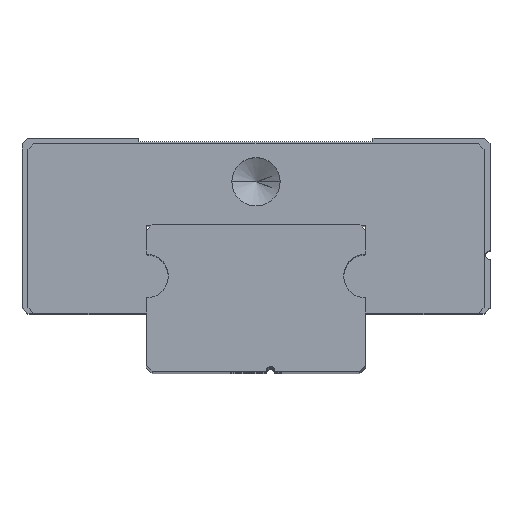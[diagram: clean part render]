
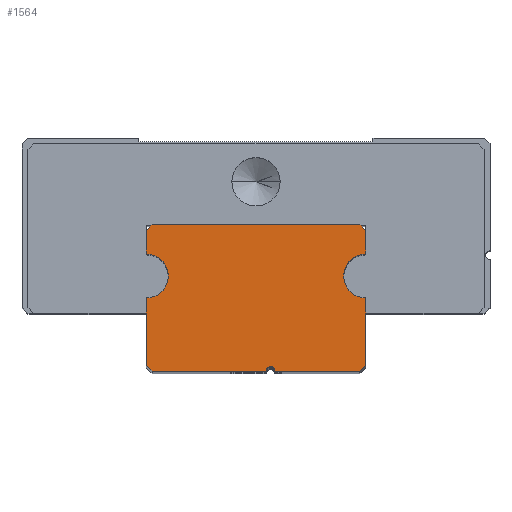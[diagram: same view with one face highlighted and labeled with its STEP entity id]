
A CAD part, top view. The second image highlights one B-rep face of the part: STEP entity #1564.
In plain terms, the highlighted planar face has unit normal (0, 0, 1).
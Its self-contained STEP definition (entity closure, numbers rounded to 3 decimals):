
#6 = CIRCLE ( 'NONE', #3812, 0.3 ) ;
#129 = VERTEX_POINT ( 'NONE', #2183 ) ;
#176 = CARTESIAN_POINT ( 'NONE',  ( 7.5, 10., 55. ) ) ;
#261 = CARTESIAN_POINT ( 'NONE',  ( 0.7, 0., 55. ) ) ;
#276 = CARTESIAN_POINT ( 'NONE',  ( -7.5, 9.6, 55. ) ) ;
#323 = ORIENTED_EDGE ( 'NONE', *, *, #6249, .F. ) ;
#345 = CARTESIAN_POINT ( 'NONE',  ( 7.5, 6.5, 55. ) ) ;
#435 = CARTESIAN_POINT ( 'NONE',  ( -7.5, 9.6, 55. ) ) ;
#440 = ORIENTED_EDGE ( 'NONE', *, *, #2705, .T. ) ;
#552 = DIRECTION ( 'NONE',  ( -1., 0., 0. ) ) ;
#568 = CARTESIAN_POINT ( 'NONE',  ( 7.5, 0.4, 55. ) ) ;
#615 = ORIENTED_EDGE ( 'NONE', *, *, #2784, .F. ) ;
#741 = CIRCLE ( 'NONE', #2118, 1.5 ) ;
#752 = CARTESIAN_POINT ( 'NONE',  ( 7.5, 0.4, 55. ) ) ;
#787 = LINE ( 'NONE', #6220, #3054 ) ;
#864 = CARTESIAN_POINT ( 'NONE',  ( -7.5, 0., 55. ) ) ;
#872 = EDGE_CURVE ( 'NONE', #4427, #4198, #4868, .T. ) ;
#884 = CARTESIAN_POINT ( 'NONE',  ( -7.5, 5., 55. ) ) ;
#955 = VERTEX_POINT ( 'NONE', #884 ) ;
#972 = EDGE_CURVE ( 'NONE', #6236, #1760, #2346, .T. ) ;
#1065 = EDGE_CURVE ( 'NONE', #3549, #2275, #4900, .T. ) ;
#1099 = CARTESIAN_POINT ( 'NONE',  ( 1., 0., 55. ) ) ;
#1160 = DIRECTION ( 'NONE',  ( 0., 1., 0. ) ) ;
#1319 = CARTESIAN_POINT ( 'NONE',  ( 1., 0., 55. ) ) ;
#1564 = ADVANCED_FACE ( 'NONE', ( #3626 ), #5998, .F. ) ;
#1595 = LINE ( 'NONE', #176, #5480 ) ;
#1670 = DIRECTION ( 'NONE',  ( 0., 1., 0. ) ) ;
#1760 = VERTEX_POINT ( 'NONE', #3886 ) ;
#1761 = DIRECTION ( 'NONE',  ( -1., 0., 0. ) ) ;
#1789 = ORIENTED_EDGE ( 'NONE', *, *, #1065, .F. ) ;
#1869 = ORIENTED_EDGE ( 'NONE', *, *, #5247, .T. ) ;
#1948 = ORIENTED_EDGE ( 'NONE', *, *, #3622, .F. ) ;
#1985 = CARTESIAN_POINT ( 'NONE',  ( -7.5, 6.5, 55. ) ) ;
#2118 = AXIS2_PLACEMENT_3D ( 'NONE', #3004, #4537, #2514 ) ;
#2183 = CARTESIAN_POINT ( 'NONE',  ( 1.3, 0., 55. ) ) ;
#2275 = VERTEX_POINT ( 'NONE', #752 ) ;
#2287 = DIRECTION ( 'NONE',  ( -1., 0., 0. ) ) ;
#2325 = AXIS2_PLACEMENT_3D ( 'NONE', #345, #6425, #5002 ) ;
#2346 = LINE ( 'NONE', #4367, #4943 ) ;
#2360 = DIRECTION ( 'NONE',  ( 0., 0., 1. ) ) ;
#2378 = CARTESIAN_POINT ( 'NONE',  ( 7.5, 0., 55. ) ) ;
#2457 = DIRECTION ( 'NONE',  ( -0.707, -0.707, 0. ) ) ;
#2514 = DIRECTION ( 'NONE',  ( -1., 0., 0. ) ) ;
#2535 = ORIENTED_EDGE ( 'NONE', *, *, #4162, .T. ) ;
#2562 = LINE ( 'NONE', #568, #3188 ) ;
#2602 = VERTEX_POINT ( 'NONE', #5166 ) ;
#2640 = ORIENTED_EDGE ( 'NONE', *, *, #872, .F. ) ;
#2642 = DIRECTION ( 'NONE',  ( 0., 0., -1. ) ) ;
#2705 = EDGE_CURVE ( 'NONE', #6236, #4466, #1595, .T. ) ;
#2738 = EDGE_CURVE ( 'NONE', #3646, #129, #787, .T. ) ;
#2784 = EDGE_CURVE ( 'NONE', #2602, #955, #4748, .T. ) ;
#2947 = DIRECTION ( 'NONE',  ( 0.707, -0.707, 0. ) ) ;
#2948 = EDGE_LOOP ( 'NONE', ( #1869, #2640, #2535, #4225, #4725, #1789, #4285, #3869, #4568, #5614, #440, #4525, #323, #1948, #615 ) ) ;
#2953 = DIRECTION ( 'NONE',  ( -1., 0., 0. ) ) ;
#2956 = CIRCLE ( 'NONE', #2325, 1.5 ) ;
#2997 = CARTESIAN_POINT ( 'NONE',  ( 1., 0., 55. ) ) ;
#3004 = CARTESIAN_POINT ( 'NONE',  ( 7.5, 6.5, 55. ) ) ;
#3054 = VECTOR ( 'NONE', #2287, 1000. ) ;
#3163 = VECTOR ( 'NONE', #1160, 1000. ) ;
#3188 = VECTOR ( 'NONE', #3189, 1000. ) ;
#3189 = DIRECTION ( 'NONE',  ( 0.707, 0.707, 0. ) ) ;
#3248 = VECTOR ( 'NONE', #3769, 1000. ) ;
#3249 = VECTOR ( 'NONE', #5828, 1000. ) ;
#3277 = CIRCLE ( 'NONE', #4441, 1.5 ) ;
#3547 = CARTESIAN_POINT ( 'NONE',  ( 7.5, 8., 55. ) ) ;
#3549 = VERTEX_POINT ( 'NONE', #4415 ) ;
#3582 = CARTESIAN_POINT ( 'NONE',  ( 6., 6.5, 55. ) ) ;
#3621 = EDGE_CURVE ( 'NONE', #6181, #3549, #2956, .T. ) ;
#3622 = EDGE_CURVE ( 'NONE', #955, #5619, #3277, .T. ) ;
#3626 = FACE_OUTER_BOUND ( 'NONE', #2948, .T. ) ;
#3646 = VERTEX_POINT ( 'NONE', #6020 ) ;
#3769 = DIRECTION ( 'NONE',  ( -1., 0., 0. ) ) ;
#3812 = AXIS2_PLACEMENT_3D ( 'NONE', #2997, #5048, #552 ) ;
#3869 = ORIENTED_EDGE ( 'NONE', *, *, #4033, .F. ) ;
#3886 = CARTESIAN_POINT ( 'NONE',  ( 7.5, 9.6, 55. ) ) ;
#3887 = AXIS2_PLACEMENT_3D ( 'NONE', #1099, #2642, #5509 ) ;
#3992 = DIRECTION ( 'NONE',  ( 0.707, -0.707, 0. ) ) ;
#4033 = EDGE_CURVE ( 'NONE', #4060, #6181, #741, .T. ) ;
#4057 = CARTESIAN_POINT ( 'NONE',  ( -7.1, 0., 55. ) ) ;
#4060 = VERTEX_POINT ( 'NONE', #5014 ) ;
#4162 = EDGE_CURVE ( 'NONE', #4427, #129, #6, .T. ) ;
#4198 = VERTEX_POINT ( 'NONE', #4057 ) ;
#4225 = ORIENTED_EDGE ( 'NONE', *, *, #2738, .F. ) ;
#4285 = ORIENTED_EDGE ( 'NONE', *, *, #3621, .F. ) ;
#4367 = CARTESIAN_POINT ( 'NONE',  ( 7.1, 10., 55. ) ) ;
#4399 = DIRECTION ( 'NONE',  ( 0., -1., 0. ) ) ;
#4410 = LINE ( 'NONE', #864, #3249 ) ;
#4415 = CARTESIAN_POINT ( 'NONE',  ( 7.5, 5., 55. ) ) ;
#4427 = VERTEX_POINT ( 'NONE', #261 ) ;
#4441 = AXIS2_PLACEMENT_3D ( 'NONE', #1985, #2360, #2953 ) ;
#4466 = VERTEX_POINT ( 'NONE', #5443 ) ;
#4525 = ORIENTED_EDGE ( 'NONE', *, *, #6459, .T. ) ;
#4526 = VECTOR ( 'NONE', #4399, 1000. ) ;
#4537 = DIRECTION ( 'NONE',  ( 0., 0., 1. ) ) ;
#4564 = EDGE_CURVE ( 'NONE', #4060, #1760, #6061, .T. ) ;
#4568 = ORIENTED_EDGE ( 'NONE', *, *, #4564, .T. ) ;
#4725 = ORIENTED_EDGE ( 'NONE', *, *, #4961, .T. ) ;
#4748 = LINE ( 'NONE', #6283, #3163 ) ;
#4868 = LINE ( 'NONE', #1319, #3248 ) ;
#4900 = LINE ( 'NONE', #2378, #4526 ) ;
#4907 = LINE ( 'NONE', #4995, #5821 ) ;
#4943 = VECTOR ( 'NONE', #3992, 1000. ) ;
#4961 = EDGE_CURVE ( 'NONE', #3646, #2275, #2562, .T. ) ;
#4995 = CARTESIAN_POINT ( 'NONE',  ( -7.1, 0., 55. ) ) ;
#5002 = DIRECTION ( 'NONE',  ( -1., 0., 0. ) ) ;
#5014 = CARTESIAN_POINT ( 'NONE',  ( 7.5, 8., 55. ) ) ;
#5016 = CARTESIAN_POINT ( 'NONE',  ( -7.5, 8., 55. ) ) ;
#5048 = DIRECTION ( 'NONE',  ( 0., 0., -1. ) ) ;
#5087 = VERTEX_POINT ( 'NONE', #276 ) ;
#5149 = VECTOR ( 'NONE', #2457, 1000. ) ;
#5166 = CARTESIAN_POINT ( 'NONE',  ( -7.5, 0.4, 55. ) ) ;
#5247 = EDGE_CURVE ( 'NONE', #2602, #4198, #4907, .T. ) ;
#5443 = CARTESIAN_POINT ( 'NONE',  ( -7.1, 10., 55. ) ) ;
#5480 = VECTOR ( 'NONE', #1761, 1000. ) ;
#5509 = DIRECTION ( 'NONE',  ( 0., -1., 0. ) ) ;
#5614 = ORIENTED_EDGE ( 'NONE', *, *, #972, .F. ) ;
#5619 = VERTEX_POINT ( 'NONE', #5016 ) ;
#5756 = CARTESIAN_POINT ( 'NONE',  ( 7.1, 10., 55. ) ) ;
#5821 = VECTOR ( 'NONE', #2947, 1000. ) ;
#5828 = DIRECTION ( 'NONE',  ( 0., 1., 0. ) ) ;
#5998 = PLANE ( 'NONE',  #3887 ) ;
#6020 = CARTESIAN_POINT ( 'NONE',  ( 7.1, 0., 55. ) ) ;
#6061 = LINE ( 'NONE', #3547, #6342 ) ;
#6181 = VERTEX_POINT ( 'NONE', #3582 ) ;
#6220 = CARTESIAN_POINT ( 'NONE',  ( 1., 0., 55. ) ) ;
#6236 = VERTEX_POINT ( 'NONE', #5756 ) ;
#6249 = EDGE_CURVE ( 'NONE', #5619, #5087, #4410, .T. ) ;
#6283 = CARTESIAN_POINT ( 'NONE',  ( -7.5, 0., 55. ) ) ;
#6342 = VECTOR ( 'NONE', #1670, 1000. ) ;
#6425 = DIRECTION ( 'NONE',  ( 0., 0., 1. ) ) ;
#6459 = EDGE_CURVE ( 'NONE', #4466, #5087, #6509, .T. ) ;
#6509 = LINE ( 'NONE', #435, #5149 ) ;
